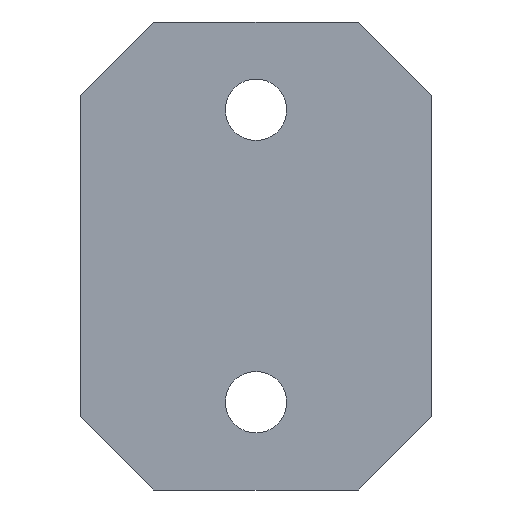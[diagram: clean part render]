
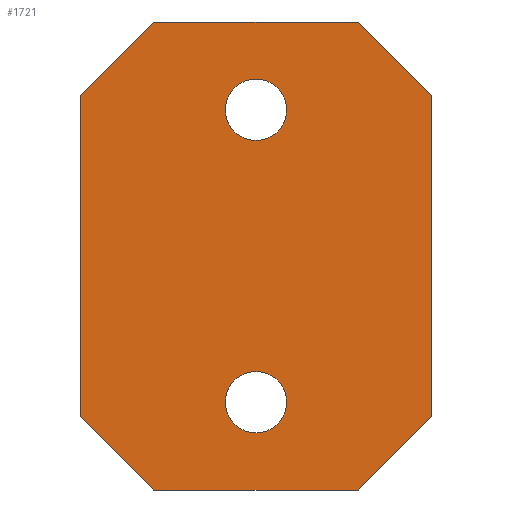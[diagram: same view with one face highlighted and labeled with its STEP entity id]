
A CAD part, front view. The second image highlights one B-rep face of the part: STEP entity #1721.
In plain terms, the highlighted planar face has unit normal (0, -1, 0).
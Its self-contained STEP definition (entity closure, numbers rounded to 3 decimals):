
#671=CARTESIAN_POINT(' ',(0.,-3.,-12.1));
#672=VERTEX_POINT(' ',#671);
#686=CARTESIAN_POINT(' ',(0.,-3.,-10.));
#691=DIRECTION(' ',(0.,1.,0.));
#696=DIRECTION(' ',(0.,0.,1.));
#701=AXIS2_PLACEMENT_3D(' ',#686,#691,#696);
#706=CIRCLE('',#701,2.1);
#711=CARTESIAN_POINT(' ',(0.,-3.,-7.9));
#712=VERTEX_POINT(' ',#711);
#716=EDGE_CURVE(' ',#712,#672,#706,.T.);
#1231=CARTESIAN_POINT(' ',(0.,-3.,-10.));
#1236=DIRECTION(' ',(-0.,1.,0.));
#1241=DIRECTION(' ',(0.,0.,-1.));
#1246=AXIS2_PLACEMENT_3D(' ',#1231,#1236,#1241);
#1251=CIRCLE('',#1246,2.1);
#1256=EDGE_CURVE(' ',#672,#712,#1251,.T.);
#1296=DIRECTION(' ',(0.,-1.,0.));
#1301=CARTESIAN_POINT(' ',(-12.,-3.,16.));
#1306=DIRECTION(' ',(0.,-0.,-1.));
#1311=AXIS2_PLACEMENT_3D(' ',#1301,#1296,#1306);
#1316=PLANE('NONE',#1311);
#1321=CARTESIAN_POINT(' ',(-12.,-3.,-11.));
#1326=DIRECTION(' ',(0.,0.,1.));
#1331=VECTOR(' ',#1326,1.);
#1336=LINE('',#1321,#1331);
#1341=CARTESIAN_POINT(' ',(-12.,-3.,-11.));
#1342=VERTEX_POINT(' ',#1341);
#1346=CARTESIAN_POINT(' ',(-12.,-3.,11.));
#1347=VERTEX_POINT(' ',#1346);
#1351=EDGE_CURVE(' ',#1342,#1347,#1336,.T.);
#1356=ORIENTED_EDGE(' ',*,*,#1351,.F.);
#1361=CARTESIAN_POINT(' ',(-12.,-3.,-11.));
#1366=DIRECTION(' ',(0.707,0.,-0.707));
#1371=VECTOR(' ',#1366,1.);
#1376=LINE('',#1361,#1371);
#1381=CARTESIAN_POINT(' ',(-7.,-3.,-16.));
#1382=VERTEX_POINT(' ',#1381);
#1386=EDGE_CURVE(' ',#1342,#1382,#1376,.T.);
#1391=ORIENTED_EDGE(' ',*,*,#1386,.T.);
#1396=CARTESIAN_POINT(' ',(7.,-3.,-16.));
#1401=DIRECTION(' ',(-1.,0.,0.));
#1406=VECTOR(' ',#1401,1.);
#1411=LINE('',#1396,#1406);
#1416=CARTESIAN_POINT(' ',(7.,-3.,-16.));
#1417=VERTEX_POINT(' ',#1416);
#1421=EDGE_CURVE(' ',#1417,#1382,#1411,.T.);
#1426=ORIENTED_EDGE(' ',*,*,#1421,.F.);
#1431=CARTESIAN_POINT(' ',(7.,-3.,-16.));
#1436=DIRECTION(' ',(0.707,0.,0.707));
#1441=VECTOR(' ',#1436,1.);
#1446=LINE('',#1431,#1441);
#1451=CARTESIAN_POINT(' ',(12.,-3.,-11.));
#1452=VERTEX_POINT(' ',#1451);
#1456=EDGE_CURVE(' ',#1417,#1452,#1446,.T.);
#1461=ORIENTED_EDGE(' ',*,*,#1456,.T.);
#1466=CARTESIAN_POINT(' ',(12.,-3.,11.));
#1471=DIRECTION(' ',(0.,0.,-1.));
#1476=VECTOR(' ',#1471,1.);
#1481=LINE('',#1466,#1476);
#1486=CARTESIAN_POINT(' ',(12.,-3.,11.));
#1487=VERTEX_POINT(' ',#1486);
#1491=EDGE_CURVE(' ',#1487,#1452,#1481,.T.);
#1496=ORIENTED_EDGE(' ',*,*,#1491,.F.);
#1501=CARTESIAN_POINT(' ',(12.,-3.,11.));
#1506=DIRECTION(' ',(-0.707,0.,0.707));
#1511=VECTOR(' ',#1506,1.);
#1516=LINE('',#1501,#1511);
#1521=CARTESIAN_POINT(' ',(7.,-3.,16.));
#1522=VERTEX_POINT(' ',#1521);
#1526=EDGE_CURVE(' ',#1487,#1522,#1516,.T.);
#1531=ORIENTED_EDGE(' ',*,*,#1526,.T.);
#1536=CARTESIAN_POINT(' ',(-7.,-3.,16.));
#1541=DIRECTION(' ',(1.,0.,0.));
#1546=VECTOR(' ',#1541,1.);
#1551=LINE('',#1536,#1546);
#1556=CARTESIAN_POINT(' ',(-7.,-3.,16.));
#1557=VERTEX_POINT(' ',#1556);
#1561=EDGE_CURVE(' ',#1557,#1522,#1551,.T.);
#1566=ORIENTED_EDGE(' ',*,*,#1561,.F.);
#1571=CARTESIAN_POINT(' ',(-7.,-3.,16.));
#1576=DIRECTION(' ',(-0.707,0.,-0.707));
#1581=VECTOR(' ',#1576,1.);
#1586=LINE('',#1571,#1581);
#1591=EDGE_CURVE(' ',#1557,#1347,#1586,.T.);
#1596=ORIENTED_EDGE(' ',*,*,#1591,.T.);
#1601=EDGE_LOOP(' ',(#1356,#1391,#1426,#1461,#1496,#1531,#1566,#1596));
#1606=FACE_OUTER_BOUND(' ',#1601,.T.);
#1611=CARTESIAN_POINT(' ',(0.,-3.,10.));
#1616=DIRECTION(' ',(0.,1.,0.));
#1621=DIRECTION(' ',(0.,0.,1.));
#1626=AXIS2_PLACEMENT_3D(' ',#1611,#1616,#1621);
#1631=CIRCLE('',#1626,2.1);
#1636=CARTESIAN_POINT(' ',(0.,-3.,12.1));
#1637=VERTEX_POINT(' ',#1636);
#1641=CARTESIAN_POINT(' ',(0.,-3.,7.9));
#1642=VERTEX_POINT(' ',#1641);
#1646=EDGE_CURVE(' ',#1637,#1642,#1631,.T.);
#1651=ORIENTED_EDGE(' ',*,*,#1646,.T.);
#1656=CARTESIAN_POINT(' ',(0.,-3.,10.));
#1661=DIRECTION(' ',(-0.,1.,0.));
#1666=DIRECTION(' ',(0.,0.,-1.));
#1671=AXIS2_PLACEMENT_3D(' ',#1656,#1661,#1666);
#1676=CIRCLE('',#1671,2.1);
#1681=EDGE_CURVE(' ',#1642,#1637,#1676,.T.);
#1686=ORIENTED_EDGE(' ',*,*,#1681,.T.);
#1691=EDGE_LOOP(' ',(#1651,#1686));
#1696=FACE_BOUND(' ',#1691,.T.);
#1701=ORIENTED_EDGE(' ',*,*,#716,.T.);
#1706=ORIENTED_EDGE(' ',*,*,#1256,.T.);
#1711=EDGE_LOOP(' ',(#1701,#1706));
#1716=FACE_BOUND(' ',#1711,.T.);
#1721=ADVANCED_FACE('NONE',(#1606,#1696,#1716),#1316,.T.);
